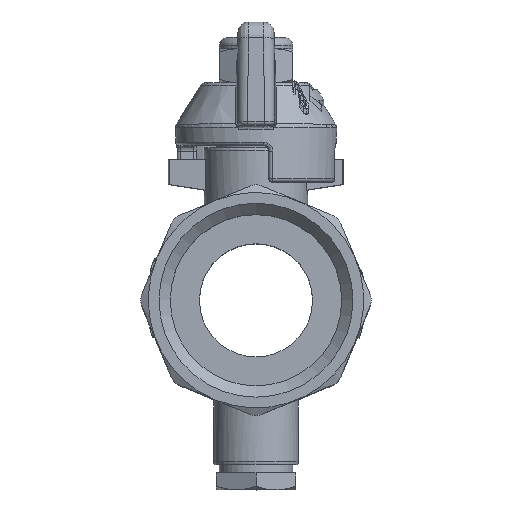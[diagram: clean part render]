
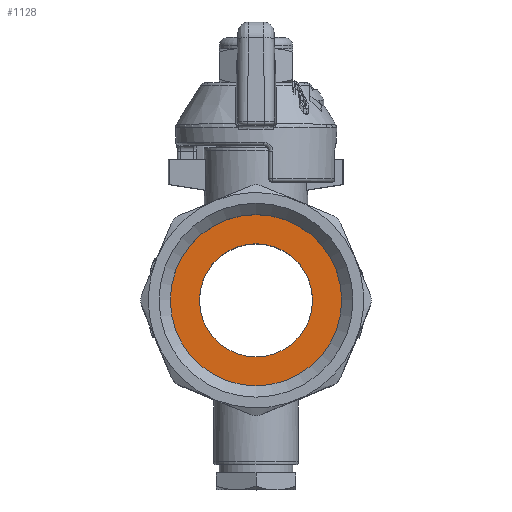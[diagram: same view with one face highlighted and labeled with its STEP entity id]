
A CAD part, top view. The second image highlights one B-rep face of the part: STEP entity #1128.
In plain terms, the highlighted planar face has unit normal (0, 0, 1).
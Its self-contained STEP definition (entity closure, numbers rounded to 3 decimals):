
#1128=ADVANCED_FACE('',(#10597,#10599),#10601,.F.);
#10597=FACE_BOUND('',#10598,.T.);
#10598=EDGE_LOOP('',(#21501));
#10599=FACE_BOUND('',#10600,.T.);
#10600=EDGE_LOOP('',(#21502));
#10601=PLANE('',#10602);
#10602=AXIS2_PLACEMENT_3D('',#10603,#10604,#10605);
#10603=CARTESIAN_POINT('',(0.,0.,16.5));
#10604=DIRECTION('',(0.,0.,-1.));
#10605=DIRECTION('',(0.,-1.,0.));
#21501=ORIENTED_EDGE('',*,*,#27703,.T.);
#21502=ORIENTED_EDGE('',*,*,#27792,.T.);
#27703=EDGE_CURVE('',#35186,#35186,#35187,.T.);
#27792=EDGE_CURVE('',#35288,#35288,#35289,.F.);
#35186=VERTEX_POINT('',#60244);
#35187=CIRCLE('',#60245,15.146);
#35288=VERTEX_POINT('',#60800);
#35289=CIRCLE('',#60801,10.);
#60244=CARTESIAN_POINT('',(0.,-15.146,16.5));
#60245=AXIS2_PLACEMENT_3D('',#60246,#60247,#60248);
#60246=CARTESIAN_POINT('',(0.,0.,16.5));
#60247=DIRECTION('',(0.,0.,1.));
#60248=DIRECTION('',(0.,-1.,0.));
#60800=CARTESIAN_POINT('',(10.,0.,16.5));
#60801=AXIS2_PLACEMENT_3D('',#60802,#60803,#60804);
#60802=CARTESIAN_POINT('',(0.,0.,16.5));
#60803=DIRECTION('',(0.,0.,1.));
#60804=DIRECTION('',(1.,0.,0.));
